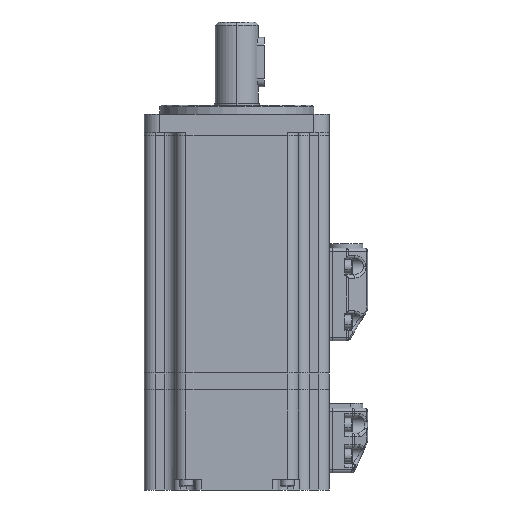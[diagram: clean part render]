
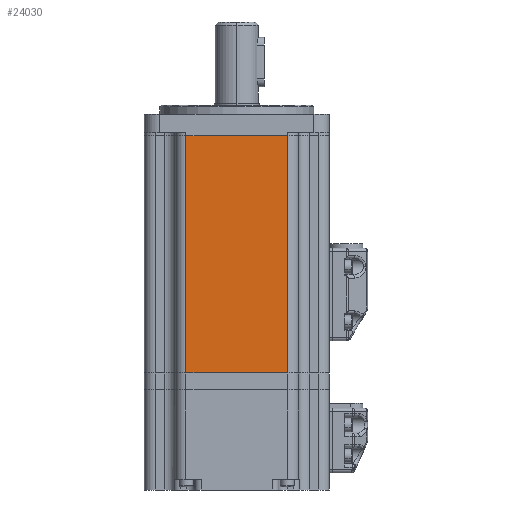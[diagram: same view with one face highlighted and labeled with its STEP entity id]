
A CAD part, front view. The second image highlights one B-rep face of the part: STEP entity #24030.
In plain terms, the highlighted planar face has unit normal (0, -1, 0).
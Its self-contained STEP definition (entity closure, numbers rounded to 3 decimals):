
#1830 = CARTESIAN_POINT ( 'NONE',  ( -20., -30., 0. ) ) ;
#4041 = CARTESIAN_POINT ( 'NONE',  ( 16.5, -30., 0. ) ) ;
#4905 = DIRECTION ( 'NONE',  ( 0., 1., 0. ) ) ;
#8212 = DIRECTION ( 'NONE',  ( 0., 0., 1. ) ) ;
#9720 = AXIS2_PLACEMENT_3D ( 'NONE', #29557, #4905, #33916 ) ;
#12103 = EDGE_CURVE ( 'NONE', #21551, #29681, #38603, .T. ) ;
#12144 = EDGE_CURVE ( 'NONE', #21551, #46406, #37347, .T. ) ;
#12910 = EDGE_CURVE ( 'NONE', #29681, #21874, #15845, .T. ) ;
#14669 = CARTESIAN_POINT ( 'NONE',  ( -16.5, -30., 0. ) ) ;
#15845 = LINE ( 'NONE', #1830, #37893 ) ;
#16382 = ORIENTED_EDGE ( 'NONE', *, *, #17381, .T. ) ;
#16545 = VECTOR ( 'NONE', #8212, 1000. ) ;
#16764 = VECTOR ( 'NONE', #42711, 1000. ) ;
#17381 = EDGE_CURVE ( 'NONE', #21874, #46406, #29130, .T. ) ;
#21551 = VERTEX_POINT ( 'NONE', #27264 ) ;
#21854 = FACE_OUTER_BOUND ( 'NONE', #31668, .T. ) ;
#21874 = VERTEX_POINT ( 'NONE', #14669 ) ;
#24030 = ADVANCED_FACE ( 'NONE', ( #21854 ), #33576, .F. ) ;
#24208 = ORIENTED_EDGE ( 'NONE', *, *, #12144, .F. ) ;
#27264 = CARTESIAN_POINT ( 'NONE',  ( 16.5, -30., -77. ) ) ;
#29130 = LINE ( 'NONE', #30384, #16764 ) ;
#29557 = CARTESIAN_POINT ( 'NONE',  ( -20., -30., -77. ) ) ;
#29681 = VERTEX_POINT ( 'NONE', #4041 ) ;
#30384 = CARTESIAN_POINT ( 'NONE',  ( -16.5, -30., -77. ) ) ;
#30792 = DIRECTION ( 'NONE',  ( -1., 0., 0. ) ) ;
#31668 = EDGE_LOOP ( 'NONE', ( #35399, #16382, #24208, #41862 ) ) ;
#33093 = CARTESIAN_POINT ( 'NONE',  ( 16.5, -30., -77. ) ) ;
#33272 = DIRECTION ( 'NONE',  ( -1., 0., 0. ) ) ;
#33576 = PLANE ( 'NONE',  #9720 ) ;
#33916 = DIRECTION ( 'NONE',  ( 0., 0., 1. ) ) ;
#35399 = ORIENTED_EDGE ( 'NONE', *, *, #12910, .T. ) ;
#36056 = VECTOR ( 'NONE', #33272, 1000. ) ;
#37347 = LINE ( 'NONE', #37445, #36056 ) ;
#37445 = CARTESIAN_POINT ( 'NONE',  ( -20., -30., -77. ) ) ;
#37893 = VECTOR ( 'NONE', #30792, 1000. ) ;
#38603 = LINE ( 'NONE', #33093, #16545 ) ;
#41862 = ORIENTED_EDGE ( 'NONE', *, *, #12103, .T. ) ;
#42711 = DIRECTION ( 'NONE',  ( 0., 0., -1. ) ) ;
#46406 = VERTEX_POINT ( 'NONE', #48553 ) ;
#48553 = CARTESIAN_POINT ( 'NONE',  ( -16.5, -30., -77. ) ) ;
